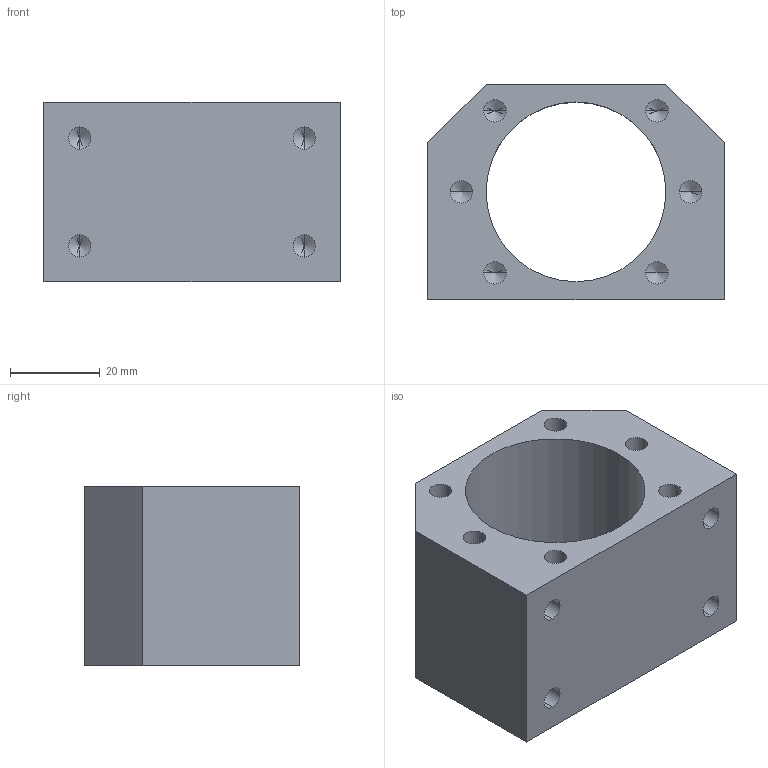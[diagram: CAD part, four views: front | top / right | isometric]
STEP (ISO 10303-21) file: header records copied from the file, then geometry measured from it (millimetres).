
FILE_DESCRIPTION (( 'STEP AP214' ), '1' );
FILE_NAME ('SSG2505.STEP', '2019-06-19T08:03:52', ( '' ), ( '' ), 'SwSTEP 2.0', 'SolidWorks 2016', '' );
FILE_SCHEMA (( 'AUTOMOTIVE_DESIGN' ));
Length unit declared in the file: millimetre
Products named in the file (1): SSG2505
Bounding box: 66 x 48 x 40 mm (x, y, z)
Volume: 66651 mm3; surface area: 19411 mm2
Topology: 1 solids, 1 shells, 50 faces, 124 edges, 66 vertices
Faces by surface type: cylinder 22, cone 20, plane 8
Entity records: 1590 total; most frequent: DIRECTION 250, CARTESIAN_POINT 221, ORIENTED_EDGE 208, EDGE_CURVE 104, AXIS2_PLACEMENT_3D 95, VERTEX_POINT 66, EDGE_LOOP 62, LINE 60
